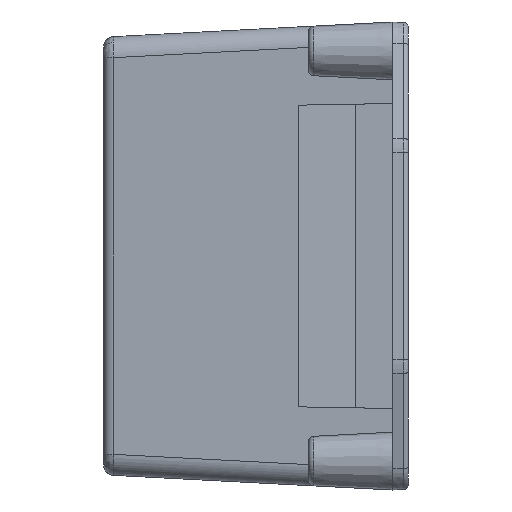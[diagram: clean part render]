
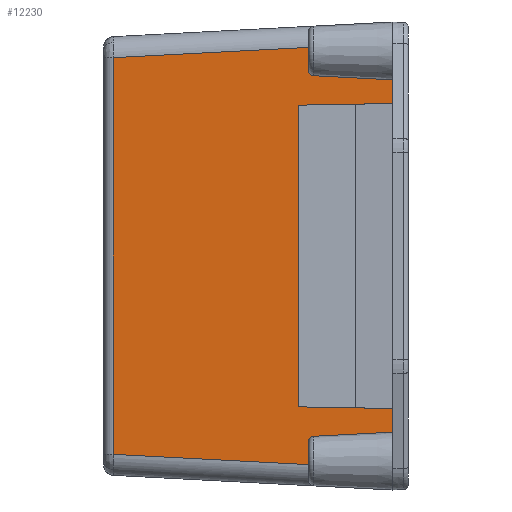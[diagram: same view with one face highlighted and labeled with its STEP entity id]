
A CAD part, left-side view. The second image highlights one B-rep face of the part: STEP entity #12230.
In plain terms, the highlighted planar face has unit normal (-0.999, 0.052, 0).
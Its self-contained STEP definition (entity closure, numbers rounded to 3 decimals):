
#146 = CARTESIAN_POINT ( 'NONE',  ( -77.711, 15.052, 34.289 ) ) ;
#201 = LINE ( 'NONE', #7921, #704 ) ;
#268 = DIRECTION ( 'NONE',  ( -0.052, -0.997, -0.052 ) ) ;
#275 = DIRECTION ( 'NONE',  ( 0., 0., 1. ) ) ;
#286 = DIRECTION ( 'NONE',  ( 0., 0., 1. ) ) ;
#499 = VERTEX_POINT ( 'NONE', #1760 ) ;
#682 = CARTESIAN_POINT ( 'NONE',  ( -77.661, 16., 35.287 ) ) ;
#704 = VECTOR ( 'NONE', #17419, 1000. ) ;
#742 =( BOUNDED_CURVE ( )  B_SPLINE_CURVE ( 3, ( #146, #12777, #14381, #15977 ),
 .UNSPECIFIED., .F., .F. ) 
 B_SPLINE_CURVE_WITH_KNOTS ( ( 4, 4 ),
 ( 1.623, 3.142 ),
 .UNSPECIFIED. ) 
 CURVE ( )  GEOMETRIC_REPRESENTATION_ITEM ( )  RATIONAL_B_SPLINE_CURVE ( ( 1., 0.817, 0.817, 1. ) ) 
 REPRESENTATION_ITEM ( '' )  );
#1021 = CARTESIAN_POINT ( 'NONE',  ( -77.661, 16., -35.287 ) ) ;
#1070 = EDGE_CURVE ( 'NONE', #3708, #499, #4522, .T. ) ;
#1186 = ORIENTED_EDGE ( 'NONE', *, *, #1070, .T. ) ;
#1214 = ORIENTED_EDGE ( 'NONE', *, *, #7759, .T. ) ;
#1303 = ORIENTED_EDGE ( 'NONE', *, *, #8785, .T. ) ;
#1355 = ORIENTED_EDGE ( 'NONE', *, *, #20117, .T. ) ;
#1569 = LINE ( 'NONE', #12575, #17892 ) ;
#1721 = VECTOR ( 'NONE', #17696, 1000. ) ;
#1760 = CARTESIAN_POINT ( 'NONE',  ( -78.5, 0., -29. ) ) ;
#2052 = DIRECTION ( 'NONE',  ( -0.052, -0.999, 0. ) ) ;
#2323 = LINE ( 'NONE', #13536, #14448 ) ;
#3088 = ORIENTED_EDGE ( 'NONE', *, *, #19988, .F. ) ;
#3323 = CARTESIAN_POINT ( 'NONE',  ( -75.717, 53.105, 37.722 ) ) ;
#3708 = VERTEX_POINT ( 'NONE', #6553 ) ;
#3892 = EDGE_CURVE ( 'NONE', #14929, #9657, #19282, .T. ) ;
#4176 = CARTESIAN_POINT ( 'NONE',  ( -77.682, 15.613, -34.318 ) ) ;
#4522 = LINE ( 'NONE', #19499, #7734 ) ;
#4653 = VECTOR ( 'NONE', #275, 1000. ) ;
#4682 = EDGE_CURVE ( 'NONE', #6954, #3708, #201, .T. ) ;
#5489 = CARTESIAN_POINT ( 'NONE',  ( -77.661, 16., -35.287 ) ) ;
#5736 = VECTOR ( 'NONE', #18505, 1000. ) ;
#5893 = ORIENTED_EDGE ( 'NONE', *, *, #14977, .T. ) ;
#6271 = ORIENTED_EDGE ( 'NONE', *, *, #3892, .T. ) ;
#6382 = LINE ( 'NONE', #16106, #1721 ) ;
#6553 = CARTESIAN_POINT ( 'NONE',  ( -78.5, 0., -33.5 ) ) ;
#6729 = CARTESIAN_POINT ( 'NONE',  ( -78.5, 0., 44.5 ) ) ;
#6820 = EDGE_CURVE ( 'NONE', #14165, #9365, #12716, .T. ) ;
#6954 = VERTEX_POINT ( 'NONE', #15526 ) ;
#7564 = CARTESIAN_POINT ( 'NONE',  ( -78.511, -0.208, 40.516 ) ) ;
#7734 = VECTOR ( 'NONE', #13215, 1000. ) ;
#7759 = EDGE_CURVE ( 'NONE', #20247, #14896, #742, .T. ) ;
#7792 = EDGE_CURVE ( 'NONE', #9657, #13469, #12583, .T. ) ;
#7914 = EDGE_LOOP ( 'NONE', ( #1186, #19038, #11096, #6271, #10443, #15163, #1214, #3088, #10265, #16166, #1355, #5893, #1303, #14462 ) ) ;
#7921 = CARTESIAN_POINT ( 'NONE',  ( -78.713, -4.065, -33.287 ) ) ;
#7980 = LINE ( 'NONE', #19227, #20135 ) ;
#8505 = VECTOR ( 'NONE', #11925, 1000. ) ;
#8785 = EDGE_CURVE ( 'NONE', #13291, #6954, #16081, .T. ) ;
#9365 = VERTEX_POINT ( 'NONE', #13036 ) ;
#9657 = VERTEX_POINT ( 'NONE', #12208 ) ;
#9674 = CARTESIAN_POINT ( 'NONE',  ( -77.661, 16., 39.667 ) ) ;
#9907 = FACE_OUTER_BOUND ( 'NONE', #7914, .T. ) ;
#9944 = LINE ( 'NONE', #12136, #5736 ) ;
#9959 = VERTEX_POINT ( 'NONE', #19577 ) ;
#10265 = ORIENTED_EDGE ( 'NONE', *, *, #11649, .T. ) ;
#10326 = CARTESIAN_POINT ( 'NONE',  ( -75.717, 53.105, -37.623 ) ) ;
#10443 = ORIENTED_EDGE ( 'NONE', *, *, #7792, .T. ) ;
#10645 = VERTEX_POINT ( 'NONE', #9674 ) ;
#11096 = ORIENTED_EDGE ( 'NONE', *, *, #14220, .T. ) ;
#11516 = DIRECTION ( 'NONE',  ( -0.999, 0.052, 0. ) ) ;
#11649 = EDGE_CURVE ( 'NONE', #10645, #14165, #12902, .T. ) ;
#11689 = CARTESIAN_POINT ( 'NONE',  ( -78.514, -0.27, 29.005 ) ) ;
#11925 = DIRECTION ( 'NONE',  ( 0., 0., -1. ) ) ;
#12071 = CARTESIAN_POINT ( 'NONE',  ( -77.661, 16., -34.726 ) ) ;
#12136 = CARTESIAN_POINT ( 'NONE',  ( -78.433, 1.279, -28.978 ) ) ;
#12188 = VERTEX_POINT ( 'NONE', #17740 ) ;
#12208 = CARTESIAN_POINT ( 'NONE',  ( -78.5, 0., 29. ) ) ;
#12230 = ADVANCED_FACE ( 'NONE', ( #9907 ), #19409, .T. ) ;
#12575 = CARTESIAN_POINT ( 'NONE',  ( -77.661, 16., 44.5 ) ) ;
#12583 = LINE ( 'NONE', #14527, #4653 ) ;
#12716 = LINE ( 'NONE', #10326, #8505 ) ;
#12777 = CARTESIAN_POINT ( 'NONE',  ( -77.682, 15.613, 34.318 ) ) ;
#12835 = CARTESIAN_POINT ( 'NONE',  ( -78.268, 4.431, -40.273 ) ) ;
#12902 = LINE ( 'NONE', #7564, #16630 ) ;
#13036 = CARTESIAN_POINT ( 'NONE',  ( -75.717, 53.105, -37.722 ) ) ;
#13215 = DIRECTION ( 'NONE',  ( 0., 0., 1. ) ) ;
#13291 = VERTEX_POINT ( 'NONE', #5489 ) ;
#13387 = CARTESIAN_POINT ( 'NONE',  ( -77.557, 18., 28.686 ) ) ;
#13469 = VERTEX_POINT ( 'NONE', #15387 ) ;
#13536 = CARTESIAN_POINT ( 'NONE',  ( -77.661, 16., 44.5 ) ) ;
#14165 = VERTEX_POINT ( 'NONE', #3323 ) ;
#14220 = EDGE_CURVE ( 'NONE', #12188, #14929, #7980, .T. ) ;
#14381 = CARTESIAN_POINT ( 'NONE',  ( -77.661, 16., 34.726 ) ) ;
#14448 = VECTOR ( 'NONE', #15113, 1000. ) ;
#14462 = ORIENTED_EDGE ( 'NONE', *, *, #4682, .T. ) ;
#14527 = CARTESIAN_POINT ( 'NONE',  ( -78.5, 0., 44.5 ) ) ;
#14894 = AXIS2_PLACEMENT_3D ( 'NONE', #6729, #11516, #2052 ) ;
#14896 = VERTEX_POINT ( 'NONE', #682 ) ;
#14929 = VERTEX_POINT ( 'NONE', #13387 ) ;
#14977 = EDGE_CURVE ( 'NONE', #9959, #13291, #2323, .T. ) ;
#15072 = VECTOR ( 'NONE', #16678, 1000. ) ;
#15113 = DIRECTION ( 'NONE',  ( 0., 0., 1. ) ) ;
#15163 = ORIENTED_EDGE ( 'NONE', *, *, #17173, .T. ) ;
#15264 = CARTESIAN_POINT ( 'NONE',  ( -77.711, 15.052, -34.289 ) ) ;
#15387 = CARTESIAN_POINT ( 'NONE',  ( -78.5, 0., 33.5 ) ) ;
#15526 = CARTESIAN_POINT ( 'NONE',  ( -77.711, 15.052, -34.289 ) ) ;
#15913 = LINE ( 'NONE', #12835, #19610 ) ;
#15977 = CARTESIAN_POINT ( 'NONE',  ( -77.661, 16., 35.287 ) ) ;
#16081 =( BOUNDED_CURVE ( )  B_SPLINE_CURVE ( 3, ( #1021, #12071, #4176, #15264 ),
 .UNSPECIFIED., .F., .F. ) 
 B_SPLINE_CURVE_WITH_KNOTS ( ( 4, 4 ),
 ( 3.142, 4.66 ),
 .UNSPECIFIED. ) 
 CURVE ( )  GEOMETRIC_REPRESENTATION_ITEM ( )  RATIONAL_B_SPLINE_CURVE ( ( 1., 0.817, 0.817, 1. ) ) 
 REPRESENTATION_ITEM ( '' )  );
#16106 = CARTESIAN_POINT ( 'NONE',  ( -78.47, 0.573, 33.53 ) ) ;
#16166 = ORIENTED_EDGE ( 'NONE', *, *, #6820, .T. ) ;
#16630 = VECTOR ( 'NONE', #20094, 1000. ) ;
#16678 = DIRECTION ( 'NONE',  ( -0.052, -0.998, 0.017 ) ) ;
#17173 = EDGE_CURVE ( 'NONE', #13469, #20247, #6382, .T. ) ;
#17419 = DIRECTION ( 'NONE',  ( -0.052, -0.997, 0.052 ) ) ;
#17696 = DIRECTION ( 'NONE',  ( 0.052, 0.997, 0.052 ) ) ;
#17740 = CARTESIAN_POINT ( 'NONE',  ( -77.557, 18., -28.686 ) ) ;
#17892 = VECTOR ( 'NONE', #20461, 1000. ) ;
#18505 = DIRECTION ( 'NONE',  ( 0.052, 0.998, 0.017 ) ) ;
#19038 = ORIENTED_EDGE ( 'NONE', *, *, #20414, .T. ) ;
#19227 = CARTESIAN_POINT ( 'NONE',  ( -77.557, 18., 44.5 ) ) ;
#19282 = LINE ( 'NONE', #11689, #15072 ) ;
#19409 = PLANE ( 'NONE',  #14894 ) ;
#19499 = CARTESIAN_POINT ( 'NONE',  ( -78.5, 0., 44.5 ) ) ;
#19577 = CARTESIAN_POINT ( 'NONE',  ( -77.661, 16., -39.667 ) ) ;
#19610 = VECTOR ( 'NONE', #268, 1000. ) ;
#19619 = CARTESIAN_POINT ( 'NONE',  ( -77.711, 15.052, 34.289 ) ) ;
#19988 = EDGE_CURVE ( 'NONE', #10645, #14896, #1569, .T. ) ;
#20094 = DIRECTION ( 'NONE',  ( 0.052, 0.997, -0.052 ) ) ;
#20117 = EDGE_CURVE ( 'NONE', #9365, #9959, #15913, .T. ) ;
#20135 = VECTOR ( 'NONE', #286, 1000. ) ;
#20247 = VERTEX_POINT ( 'NONE', #19619 ) ;
#20414 = EDGE_CURVE ( 'NONE', #499, #12188, #9944, .T. ) ;
#20461 = DIRECTION ( 'NONE',  ( 0., 0., -1. ) ) ;
